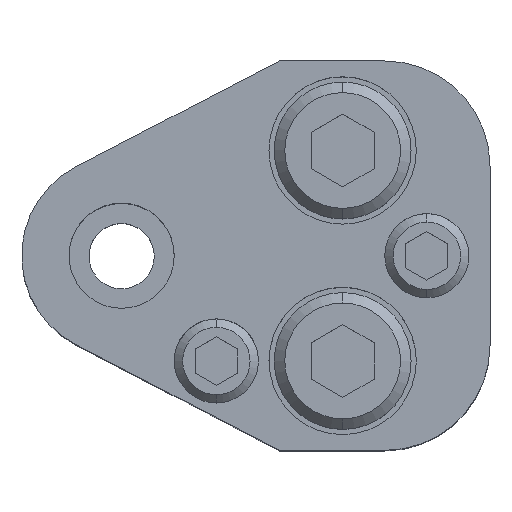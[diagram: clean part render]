
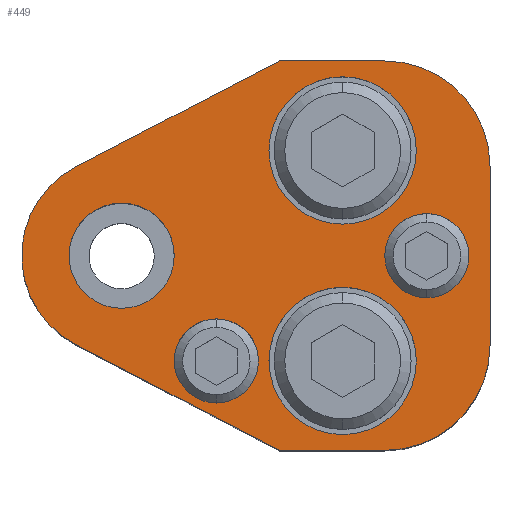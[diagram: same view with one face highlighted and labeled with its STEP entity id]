
A CAD part, top view. The second image highlights one B-rep face of the part: STEP entity #449.
In plain terms, the highlighted planar face has unit normal (0, 0, 1).
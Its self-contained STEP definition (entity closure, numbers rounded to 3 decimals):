
#205=FACE_BOUND('',#805,.T.);
#206=FACE_BOUND('',#806,.T.);
#207=FACE_BOUND('',#807,.T.);
#208=FACE_BOUND('',#808,.T.);
#209=FACE_BOUND('',#809,.T.);
#210=FACE_BOUND('',#810,.T.);
#271=CIRCLE('',#2618,9.5);
#273=CIRCLE('',#2623,10.);
#275=CIRCLE('',#2627,10.);
#277=CIRCLE('',#2632,4.);
#279=CIRCLE('',#2635,4.);
#281=CIRCLE('',#2638,4.);
#283=CIRCLE('',#2641,4.);
#293=CIRCLE('',#2656,7.);
#294=CIRCLE('',#2657,7.);
#295=CIRCLE('',#2658,7.);
#296=CIRCLE('',#2659,7.);
#297=CIRCLE('',#2660,5.);
#298=CIRCLE('',#2661,5.);
#449=ADVANCED_FACE('',(#205,#206,#207,#208,#209,#210),#579,.T.);
#579=PLANE('',#2662);
#805=EDGE_LOOP('',(#1137,#1138,#1139,#1140,#1141,#1142,#1143,#1144));
#806=EDGE_LOOP('',(#1145,#1146));
#807=EDGE_LOOP('',(#1147,#1148));
#808=EDGE_LOOP('',(#1149,#1150));
#809=EDGE_LOOP('',(#1151,#1152));
#810=EDGE_LOOP('',(#1153,#1154));
#1137=ORIENTED_EDGE('',*,*,#1914,.T.);
#1138=ORIENTED_EDGE('',*,*,#1918,.T.);
#1139=ORIENTED_EDGE('',*,*,#1921,.T.);
#1140=ORIENTED_EDGE('',*,*,#1924,.T.);
#1141=ORIENTED_EDGE('',*,*,#1927,.T.);
#1142=ORIENTED_EDGE('',*,*,#1930,.T.);
#1143=ORIENTED_EDGE('',*,*,#1933,.T.);
#1144=ORIENTED_EDGE('',*,*,#1936,.T.);
#1145=ORIENTED_EDGE('',*,*,#1961,.F.);
#1146=ORIENTED_EDGE('',*,*,#1962,.F.);
#1147=ORIENTED_EDGE('',*,*,#1963,.F.);
#1148=ORIENTED_EDGE('',*,*,#1964,.F.);
#1149=ORIENTED_EDGE('',*,*,#1947,.F.);
#1150=ORIENTED_EDGE('',*,*,#1943,.F.);
#1151=ORIENTED_EDGE('',*,*,#1941,.F.);
#1152=ORIENTED_EDGE('',*,*,#1937,.F.);
#1153=ORIENTED_EDGE('',*,*,#1965,.T.);
#1154=ORIENTED_EDGE('',*,*,#1966,.T.);
#1670=VERTEX_POINT('',#3804);
#1671=VERTEX_POINT('',#3806);
#1674=VERTEX_POINT('',#3813);
#1676=VERTEX_POINT('',#3819);
#1678=VERTEX_POINT('',#3825);
#1680=VERTEX_POINT('',#3831);
#1682=VERTEX_POINT('',#3837);
#1684=VERTEX_POINT('',#3843);
#1685=VERTEX_POINT('',#3851);
#1686=VERTEX_POINT('',#3852);
#1689=VERTEX_POINT('',#3863);
#1690=VERTEX_POINT('',#3864);
#1701=VERTEX_POINT('',#3899);
#1702=VERTEX_POINT('',#3900);
#1703=VERTEX_POINT('',#3903);
#1704=VERTEX_POINT('',#3904);
#1705=VERTEX_POINT('',#3907);
#1706=VERTEX_POINT('',#3908);
#1914=EDGE_CURVE('',#1671,#1670,#271,.T.);
#1918=EDGE_CURVE('',#1670,#1674,#2242,.T.);
#1921=EDGE_CURVE('',#1674,#1676,#2245,.T.);
#1924=EDGE_CURVE('',#1676,#1678,#273,.T.);
#1927=EDGE_CURVE('',#1678,#1680,#2249,.T.);
#1930=EDGE_CURVE('',#1680,#1682,#275,.T.);
#1933=EDGE_CURVE('',#1682,#1684,#2253,.T.);
#1936=EDGE_CURVE('',#1684,#1671,#2256,.T.);
#1937=EDGE_CURVE('',#1685,#1686,#277,.T.);
#1941=EDGE_CURVE('',#1686,#1685,#279,.T.);
#1943=EDGE_CURVE('',#1689,#1690,#281,.T.);
#1947=EDGE_CURVE('',#1690,#1689,#283,.T.);
#1961=EDGE_CURVE('',#1701,#1702,#293,.T.);
#1962=EDGE_CURVE('',#1702,#1701,#294,.T.);
#1963=EDGE_CURVE('',#1703,#1704,#295,.T.);
#1964=EDGE_CURVE('',#1704,#1703,#296,.T.);
#1965=EDGE_CURVE('',#1705,#1706,#297,.T.);
#1966=EDGE_CURVE('',#1706,#1705,#298,.T.);
#2242=LINE('',#3814,#2432);
#2245=LINE('',#3820,#2435);
#2249=LINE('',#3832,#2439);
#2253=LINE('',#3844,#2443);
#2256=LINE('',#3848,#2446);
#2432=VECTOR('',#3024,1.);
#2435=VECTOR('',#3029,1.);
#2439=VECTOR('',#3041,1.);
#2443=VECTOR('',#3053,1.);
#2446=VECTOR('',#3058,1.);
#2618=AXIS2_PLACEMENT_3D('',#3805,#3016,#3017);
#2623=AXIS2_PLACEMENT_3D('',#3826,#3034,#3035);
#2627=AXIS2_PLACEMENT_3D('',#3838,#3046,#3047);
#2632=AXIS2_PLACEMENT_3D('',#3850,#3061,#3062);
#2635=AXIS2_PLACEMENT_3D('',#3859,#3069,#3070);
#2638=AXIS2_PLACEMENT_3D('',#3862,#3075,#3076);
#2641=AXIS2_PLACEMENT_3D('',#3871,#3083,#3084);
#2656=AXIS2_PLACEMENT_3D('',#3898,#3117,#3118);
#2657=AXIS2_PLACEMENT_3D('',#3901,#3119,#3120);
#2658=AXIS2_PLACEMENT_3D('',#3902,#3121,#3122);
#2659=AXIS2_PLACEMENT_3D('',#3905,#3123,#3124);
#2660=AXIS2_PLACEMENT_3D('',#3906,#3125,#3126);
#2661=AXIS2_PLACEMENT_3D('',#3909,#3127,#3128);
#2662=AXIS2_PLACEMENT_3D('',#3910,#3129,#3130);
#3016=DIRECTION('',(0.,0.,1.));
#3017=DIRECTION('',(0.,1.,0.));
#3024=DIRECTION('',(0.887,-0.461,0.));
#3029=DIRECTION('',(1.,0.,0.));
#3034=DIRECTION('',(0.,0.,1.));
#3035=DIRECTION('',(-0.707,0.707,0.));
#3041=DIRECTION('',(0.,1.,0.));
#3046=DIRECTION('',(0.,0.,1.));
#3047=DIRECTION('',(-0.707,-0.707,0.));
#3053=DIRECTION('',(-1.,0.,0.));
#3058=DIRECTION('',(-0.887,-0.461,0.));
#3061=DIRECTION('',(0.,0.,1.));
#3062=DIRECTION('',(1.,0.,0.));
#3069=DIRECTION('',(0.,0.,1.));
#3070=DIRECTION('',(-1.,0.,0.));
#3075=DIRECTION('',(0.,0.,1.));
#3076=DIRECTION('',(1.,0.,0.));
#3083=DIRECTION('',(0.,0.,1.));
#3084=DIRECTION('',(-1.,0.,0.));
#3117=DIRECTION('',(0.,0.,1.));
#3118=DIRECTION('',(1.,0.,0.));
#3119=DIRECTION('',(0.,0.,1.));
#3120=DIRECTION('',(-1.,0.,0.));
#3121=DIRECTION('',(0.,0.,1.));
#3122=DIRECTION('',(1.,0.,0.));
#3123=DIRECTION('',(0.,0.,1.));
#3124=DIRECTION('',(-1.,0.,0.));
#3125=DIRECTION('',(0.,0.,-1.));
#3126=DIRECTION('',(-1.,0.,0.));
#3127=DIRECTION('',(0.,0.,-1.));
#3128=DIRECTION('',(1.,0.,0.));
#3129=DIRECTION('',(0.,0.,1.));
#3130=DIRECTION('',(0.887,0.461,0.));
#3804=CARTESIAN_POINT('',(-4.38,-8.43,35.));
#3805=CARTESIAN_POINT('',(0.,0.,35.));
#3806=CARTESIAN_POINT('',(-4.38,8.43,35.));
#3813=CARTESIAN_POINT('',(15.,-18.5,35.));
#3814=CARTESIAN_POINT('',(15.,-18.5,35.));
#3819=CARTESIAN_POINT('',(25.,-18.5,35.));
#3820=CARTESIAN_POINT('',(15.,-18.5,35.));
#3825=CARTESIAN_POINT('',(35.,-8.5,35.));
#3826=CARTESIAN_POINT('',(25.,-8.5,35.));
#3831=CARTESIAN_POINT('',(35.,8.5,35.));
#3832=CARTESIAN_POINT('',(35.,-8.5,35.));
#3837=CARTESIAN_POINT('',(25.,18.5,35.));
#3838=CARTESIAN_POINT('',(25.,8.5,35.));
#3843=CARTESIAN_POINT('',(15.,18.5,35.));
#3844=CARTESIAN_POINT('',(15.,18.5,35.));
#3848=CARTESIAN_POINT('',(15.,18.5,35.));
#3850=CARTESIAN_POINT('',(9.,-10.,35.));
#3851=CARTESIAN_POINT('',(9.,-6.,35.));
#3852=CARTESIAN_POINT('',(9.,-14.,35.));
#3859=CARTESIAN_POINT('',(9.,-10.,35.));
#3862=CARTESIAN_POINT('',(29.,0.,35.));
#3863=CARTESIAN_POINT('',(29.,4.,35.));
#3864=CARTESIAN_POINT('',(29.,-4.,35.));
#3871=CARTESIAN_POINT('',(29.,0.,35.));
#3898=CARTESIAN_POINT('',(21.,-10.,35.));
#3899=CARTESIAN_POINT('',(21.,-3.,35.));
#3900=CARTESIAN_POINT('',(21.,-17.,35.));
#3901=CARTESIAN_POINT('',(21.,-10.,35.));
#3902=CARTESIAN_POINT('',(21.,10.,35.));
#3903=CARTESIAN_POINT('',(21.,17.,35.));
#3904=CARTESIAN_POINT('',(21.,3.,35.));
#3905=CARTESIAN_POINT('',(21.,10.,35.));
#3906=CARTESIAN_POINT('',(0.,0.,35.));
#3907=CARTESIAN_POINT('',(0.,5.,35.));
#3908=CARTESIAN_POINT('',(0.,-5.,35.));
#3909=CARTESIAN_POINT('',(0.,0.,35.));
#3910=CARTESIAN_POINT('',(-4.38,8.43,35.));
